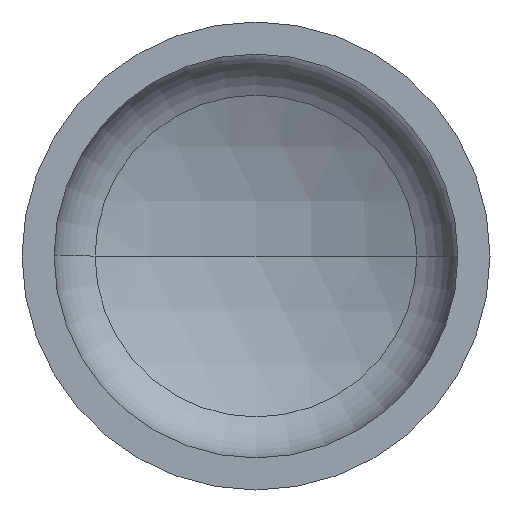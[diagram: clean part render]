
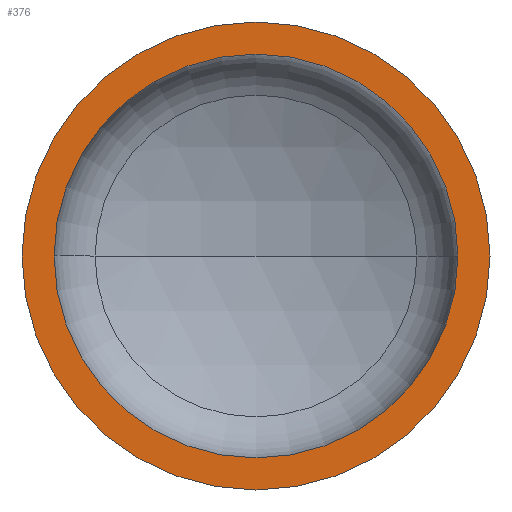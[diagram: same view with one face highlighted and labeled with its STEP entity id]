
A CAD part, front view. The second image highlights one B-rep face of the part: STEP entity #376.
In plain terms, the highlighted planar face has unit normal (0, -1, 0).
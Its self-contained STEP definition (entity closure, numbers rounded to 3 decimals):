
#2 = EDGE_LOOP ( 'NONE', ( #326, #131 ) ) ;
#3 = ORIENTED_EDGE ( 'NONE', *, *, #117, .F. ) ;
#4 = AXIS2_PLACEMENT_3D ( 'NONE', #147, #208, #212 ) ;
#9 = CIRCLE ( 'NONE', #69, 604. ) ;
#50 = AXIS2_PLACEMENT_3D ( 'NONE', #120, #123, #160 ) ;
#51 = VERTEX_POINT ( 'NONE', #258 ) ;
#59 = VERTEX_POINT ( 'NONE', #359 ) ;
#63 = EDGE_LOOP ( 'NONE', ( #3, #118 ) ) ;
#69 = AXIS2_PLACEMENT_3D ( 'NONE', #220, #385, #219 ) ;
#72 = AXIS2_PLACEMENT_3D ( 'NONE', #306, #288, #287 ) ;
#108 = VERTEX_POINT ( 'NONE', #240 ) ;
#113 = EDGE_CURVE ( 'NONE', #59, #116, #309, .T. ) ;
#116 = VERTEX_POINT ( 'NONE', #307 ) ;
#117 = EDGE_CURVE ( 'NONE', #51, #108, #9, .T. ) ;
#118 = ORIENTED_EDGE ( 'NONE', *, *, #408, .F. ) ;
#120 = CARTESIAN_POINT ( 'NONE',  ( 0., 0., 0. ) ) ;
#123 = DIRECTION ( 'NONE',  ( 0., -1., 0. ) ) ;
#131 = ORIENTED_EDGE ( 'NONE', *, *, #113, .T. ) ;
#143 = CARTESIAN_POINT ( 'NONE',  ( 0., 0., 0. ) ) ;
#147 = CARTESIAN_POINT ( 'NONE',  ( -700., 0., 0. ) ) ;
#151 = DIRECTION ( 'NONE',  ( 0., -1., 0. ) ) ;
#160 = DIRECTION ( 'NONE',  ( 1., 0., 0. ) ) ;
#184 = FACE_OUTER_BOUND ( 'NONE', #2, .T. ) ;
#208 = DIRECTION ( 'NONE',  ( 0., 1., 0. ) ) ;
#212 = DIRECTION ( 'NONE',  ( -1., 0., 0. ) ) ;
#219 = DIRECTION ( 'NONE',  ( 1., 0., 0. ) ) ;
#220 = CARTESIAN_POINT ( 'NONE',  ( 0., 0., 0. ) ) ;
#240 = CARTESIAN_POINT ( 'NONE',  ( -604., 0., 0. ) ) ;
#243 = CIRCLE ( 'NONE', #298, 604. ) ;
#258 = CARTESIAN_POINT ( 'NONE',  ( 604., 0., 0. ) ) ;
#287 = DIRECTION ( 'NONE',  ( 1., 0., 0. ) ) ;
#288 = DIRECTION ( 'NONE',  ( 0., -1., 0. ) ) ;
#298 = AXIS2_PLACEMENT_3D ( 'NONE', #143, #151, #349 ) ;
#306 = CARTESIAN_POINT ( 'NONE',  ( 0., 0., 0. ) ) ;
#307 = CARTESIAN_POINT ( 'NONE',  ( 700., 0., 0. ) ) ;
#309 = CIRCLE ( 'NONE', #72, 700. ) ;
#326 = ORIENTED_EDGE ( 'NONE', *, *, #339, .T. ) ;
#333 = CIRCLE ( 'NONE', #50, 700. ) ;
#339 = EDGE_CURVE ( 'NONE', #116, #59, #333, .T. ) ;
#349 = DIRECTION ( 'NONE',  ( 1., 0., 0. ) ) ;
#359 = CARTESIAN_POINT ( 'NONE',  ( -700., 0., 0. ) ) ;
#376 = ADVANCED_FACE ( 'NONE', ( #377, #184 ), #394, .F. ) ;
#377 = FACE_BOUND ( 'NONE', #63, .T. ) ;
#385 = DIRECTION ( 'NONE',  ( 0., -1., 0. ) ) ;
#394 = PLANE ( 'NONE',  #4 ) ;
#408 = EDGE_CURVE ( 'NONE', #108, #51, #243, .T. ) ;
